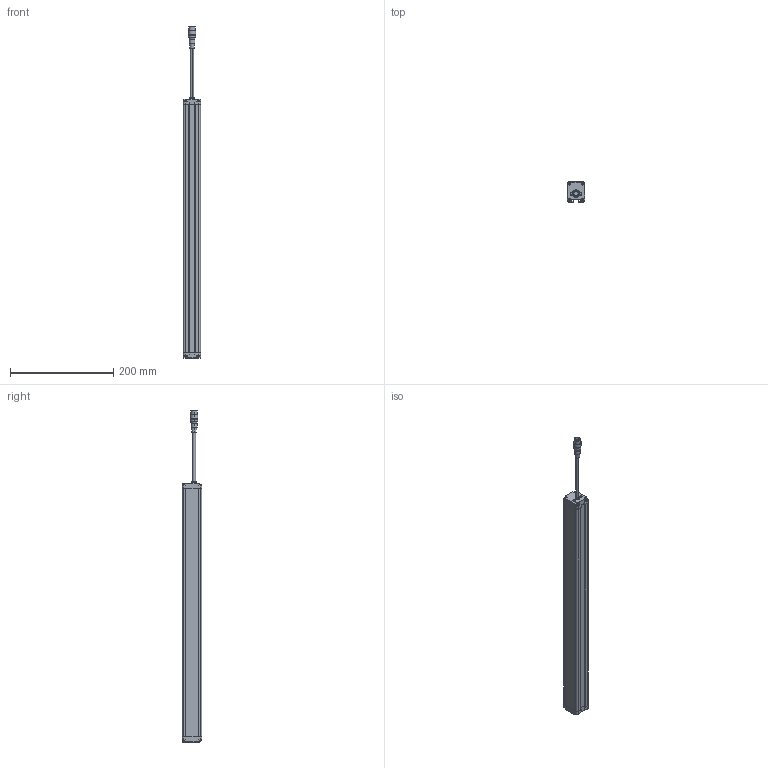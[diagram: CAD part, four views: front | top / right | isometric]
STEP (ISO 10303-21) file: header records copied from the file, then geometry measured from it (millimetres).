
FILE_DESCRIPTION((''),'2;1');
FILE_NAME('CT6-0472','2026-03-31T10:17:47',('Administrator'),(''),'CREO PARAMETRIC BY PTC INC, 2016510','CREO PARAMETRIC BY PTC INC, 2016510','');
FILE_SCHEMA(('AUTOMOTIVE_DESIGN { 1 0 10303 214 1 1 1 1 }'));
Length unit declared in the file: millimetre
Products named in the file (1): CT6-0472
Bounding box: 33 x 38 x 641.9 mm (x, y, z)
Surface area: 117967.3 mm2 (no closed solid volume)
Topology: 0 solids, 12 shells, 819 faces, 2208 edges, 1416 vertices
Faces by surface type: plane 388, cylinder 235, extrusion 88, sphere 40, torus 36, cone 28, bspline 4
Entity records: 32625 total; most frequent: CARTESIAN_POINT 6183, ORIENTED_EDGE 4328, DIRECTION 4054, EDGE_CURVE 2164, VERTEX_POINT 1416, AXIS2_PLACEMENT_3D 1380, VECTOR 1294, LINE 1206
